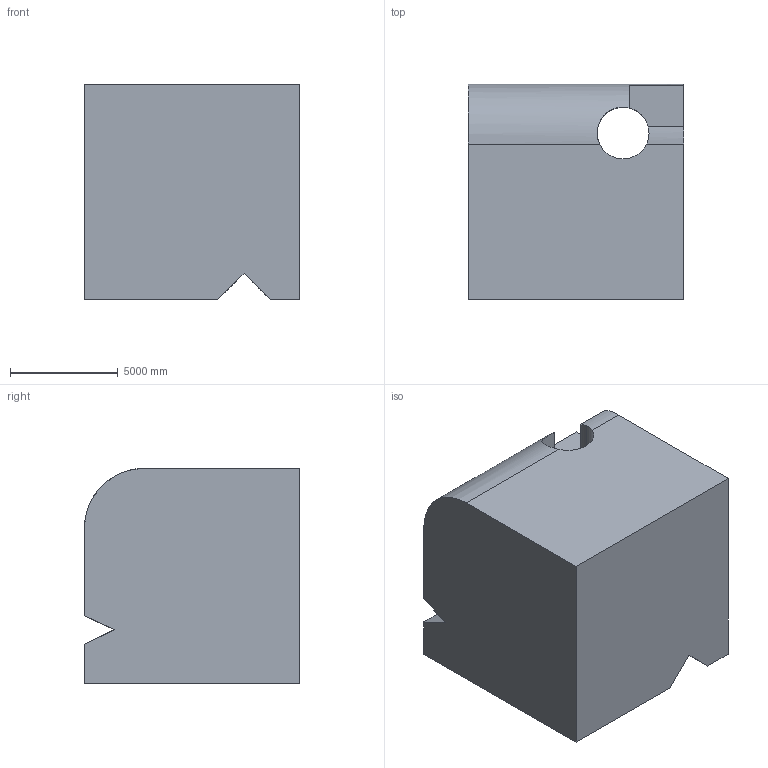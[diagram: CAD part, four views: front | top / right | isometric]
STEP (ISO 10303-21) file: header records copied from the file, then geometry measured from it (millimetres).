
FILE_DESCRIPTION (( 'STEP AP203' ), '1' );
FILE_NAME ('1689.STEP', '2022-08-26T13:20:46', ( 'user' ), ( '' ), 'SwSTEP 2.0', 'SolidWorks 2021', '' );
FILE_SCHEMA (( 'CONFIG_CONTROL_DESIGN' ));
Length unit declared in the file: centimetre
Products named in the file (1): 1689
Bounding box: 10000 x 10000 x 10000 mm (x, y, z)
Volume: 868404875859 mm3; surface area: 735931883.9 mm2
Topology: 1 solids, 1 shells, 36 faces, 112 edges, 74 vertices
Faces by surface type: plane 25, cylinder 11
Entity records: 2335 total; most frequent: CARTESIAN_POINT 1279, ORIENTED_EDGE 224, DIRECTION 182, EDGE_CURVE 112, VECTOR 76, LINE 76, VERTEX_POINT 74, AXIS2_PLACEMENT_3D 53
